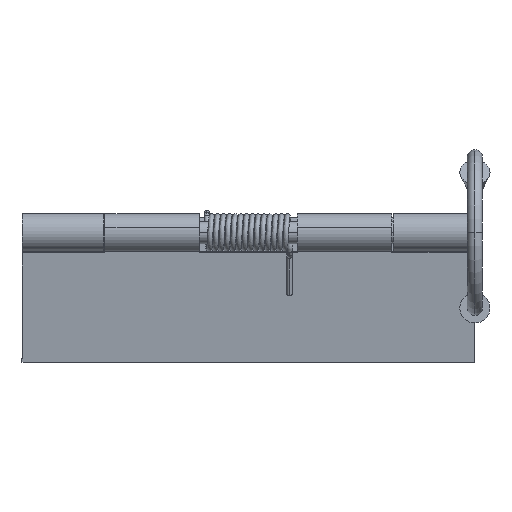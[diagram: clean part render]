
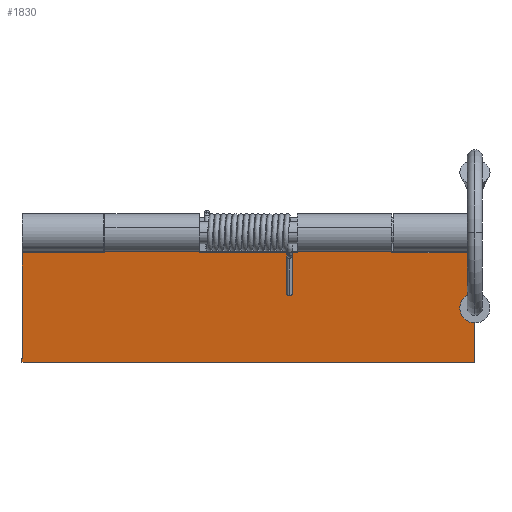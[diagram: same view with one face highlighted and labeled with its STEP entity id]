
A CAD part, left-side view. The second image highlights one B-rep face of the part: STEP entity #1830.
In plain terms, the highlighted planar face has unit normal (-0.993, 0, -0.122) as drawn and (0, 0, 1) by its records, which use the part's own axes.
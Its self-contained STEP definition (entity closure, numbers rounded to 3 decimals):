
#1101=CARTESIAN_POINT('',(-3.4,-18.,0.65));
#1102=VERTEX_POINT('',#1101);
#1110=CARTESIAN_POINT('',(-3.4,-5.5,0.65));
#1111=VERTEX_POINT('',#1110);
#1112=CARTESIAN_POINT('',(-3.4,-5.5,0.65));
#1113=DIRECTION('',(0.0,-1.0,0.0));
#1114=VECTOR('',#1113,12.5);
#1115=LINE('',#1112,#1114);
#1116=EDGE_CURVE('',#1111,#1102,#1115,.T.);
#1176=CARTESIAN_POINT('',(-3.4,7.5,0.65));
#1177=VERTEX_POINT('',#1176);
#1185=CARTESIAN_POINT('',(-3.4,20.,0.65));
#1186=VERTEX_POINT('',#1185);
#1187=CARTESIAN_POINT('',(-3.4,20.,0.65));
#1188=DIRECTION('',(0.0,-1.0,0.0));
#1189=VECTOR('',#1188,12.5);
#1190=LINE('',#1187,#1189);
#1191=EDGE_CURVE('',#1186,#1177,#1190,.T.);
#1324=CARTESIAN_POINT('',(-0.5,-18.,0.65));
#1325=VERTEX_POINT('',#1324);
#1332=CARTESIAN_POINT('',(-0.5,-18.,0.65));
#1333=DIRECTION('',(-1.0,0.0,0.0));
#1334=VECTOR('',#1333,2.9);
#1335=LINE('',#1332,#1334);
#1336=EDGE_CURVE('',#1325,#1102,#1335,.T.);
#1374=CARTESIAN_POINT('',(-0.5,20.,0.65));
#1375=VERTEX_POINT('',#1374);
#1376=CARTESIAN_POINT('',(-3.4,20.,0.65));
#1377=DIRECTION('',(1.0,0.0,0.0));
#1378=VECTOR('',#1377,2.9);
#1379=LINE('',#1376,#1378);
#1380=EDGE_CURVE('',#1186,#1375,#1379,.T.);
#1596=CARTESIAN_POINT('',(-0.5,31.,0.65));
#1597=VERTEX_POINT('',#1596);
#1598=CARTESIAN_POINT('',(-0.5,20.,0.65));
#1599=DIRECTION('',(0.0,1.0,0.0));
#1600=VECTOR('',#1599,11.0);
#1601=LINE('',#1598,#1600);
#1602=EDGE_CURVE('',#1375,#1597,#1601,.T.);
#1620=CARTESIAN_POINT('',(14.1,31.,0.65));
#1621=VERTEX_POINT('',#1620);
#1622=CARTESIAN_POINT('',(-0.5,31.,0.65));
#1623=DIRECTION('',(1.0,0.0,0.0));
#1624=VECTOR('',#1623,14.6);
#1625=LINE('',#1622,#1624);
#1626=EDGE_CURVE('',#1597,#1621,#1625,.T.);
#1644=CARTESIAN_POINT('',(14.1,-29.,0.65));
#1645=VERTEX_POINT('',#1644);
#1646=CARTESIAN_POINT('',(14.1,31.,0.65));
#1647=DIRECTION('',(0.0,-1.0,0.0));
#1648=VECTOR('',#1647,60.);
#1649=LINE('',#1646,#1648);
#1650=EDGE_CURVE('',#1621,#1645,#1649,.T.);
#1668=CARTESIAN_POINT('',(-0.5,-29.,0.65));
#1669=VERTEX_POINT('',#1668);
#1670=CARTESIAN_POINT('',(14.1,-29.,0.65));
#1671=DIRECTION('',(-1.0,0.0,0.0));
#1672=VECTOR('',#1671,14.6);
#1673=LINE('',#1670,#1672);
#1674=EDGE_CURVE('',#1645,#1669,#1673,.T.);
#1692=CARTESIAN_POINT('',(-0.5,-29.,0.65));
#1693=DIRECTION('',(0.0,1.0,0.0));
#1694=VECTOR('',#1693,11.0);
#1695=LINE('',#1692,#1694);
#1696=EDGE_CURVE('',#1669,#1325,#1695,.T.);
#1733=CARTESIAN_POINT('',(-0.5,-5.5,0.65));
#1734=VERTEX_POINT('',#1733);
#1735=CARTESIAN_POINT('',(-3.4,-5.5,0.65));
#1736=DIRECTION('',(1.0,0.0,0.0));
#1737=VECTOR('',#1736,2.9);
#1738=LINE('',#1735,#1737);
#1739=EDGE_CURVE('',#1111,#1734,#1738,.T.);
#1769=CARTESIAN_POINT('',(-0.5,7.5,0.65));
#1770=VERTEX_POINT('',#1769);
#1771=CARTESIAN_POINT('',(-0.5,-5.5,0.65));
#1772=DIRECTION('',(0.0,1.0,0.0));
#1773=VECTOR('',#1772,13.);
#1774=LINE('',#1771,#1773);
#1775=EDGE_CURVE('',#1734,#1770,#1774,.T.);
#1795=CARTESIAN_POINT('',(-0.5,7.5,0.65));
#1796=DIRECTION('',(-1.0,0.0,0.0));
#1797=VECTOR('',#1796,2.9);
#1798=LINE('',#1795,#1797);
#1799=EDGE_CURVE('',#1770,#1177,#1798,.T.);
#1811=CARTESIAN_POINT('',(1.312,0.,0.65));
#1812=DIRECTION('',(0.0,0.0,1.0));
#1813=DIRECTION('',(1.0,0.0,0.0));
#1814=AXIS2_PLACEMENT_3D('',#1811,#1812,#1813);
#1815=PLANE('',#1814);
#1816=ORIENTED_EDGE('',*,*,#1116,.T.);
#1817=ORIENTED_EDGE('',*,*,#1336,.F.);
#1818=ORIENTED_EDGE('',*,*,#1696,.F.);
#1819=ORIENTED_EDGE('',*,*,#1674,.F.);
#1820=ORIENTED_EDGE('',*,*,#1650,.F.);
#1821=ORIENTED_EDGE('',*,*,#1626,.F.);
#1822=ORIENTED_EDGE('',*,*,#1602,.F.);
#1823=ORIENTED_EDGE('',*,*,#1380,.F.);
#1824=ORIENTED_EDGE('',*,*,#1191,.T.);
#1825=ORIENTED_EDGE('',*,*,#1799,.F.);
#1826=ORIENTED_EDGE('',*,*,#1775,.F.);
#1827=ORIENTED_EDGE('',*,*,#1739,.F.);
#1828=EDGE_LOOP('',(#1816,#1817,#1818,#1819,#1820,#1821,#1822,#1823,#1824,#1825,#1826,#1827));
#1829=FACE_OUTER_BOUND('',#1828,.T.);
#1830=ADVANCED_FACE('',(#1829),#1815,.T.);
